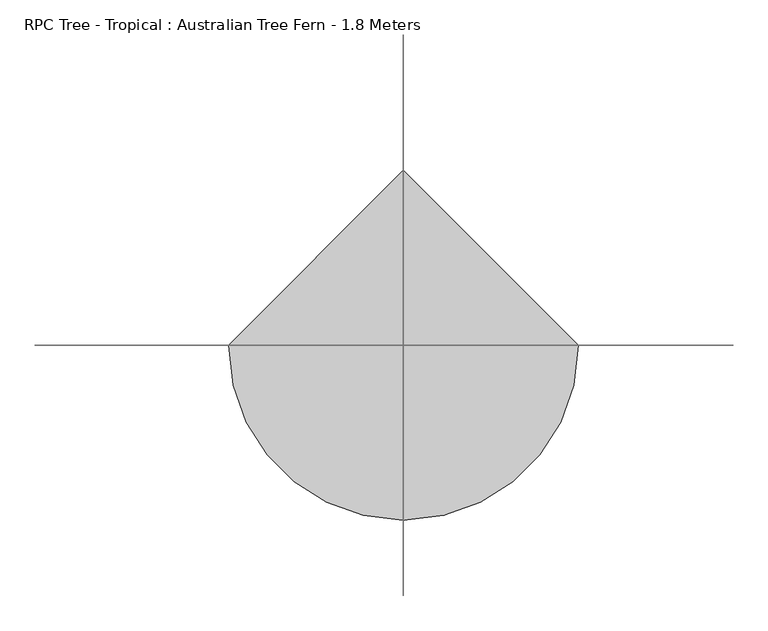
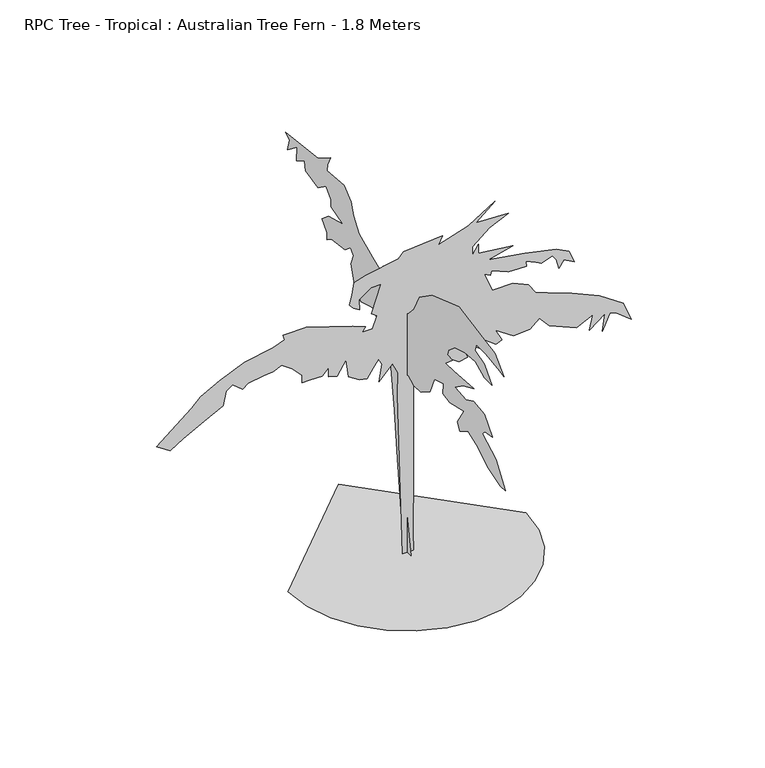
"""IFC4 building model written with IfcOpenShell, lengths in millimetres: geographic element geometry, RPC Tree - Tropical : Australian Tree Fern - 1.8 Meters."""

import ifcopenshell
import ifcopenshell.guid

model = None  # the IFC model being written
_history = None  # IfcOwnerHistory: only IFC2X3 demands one
_inside = {}  # id of a spatial element -> (the spatial element, [elements in it])
_under = {}  # id of a project, library or spatial element -> (it, [spatial elements below it])
_declared = {}  # id of a project -> (the project, [libraries it declares])
_typed = {}  # id of a type object -> (the type object, [elements of that type])
_made_of = {}  # id of a material, layer set ... -> (it, [elements and type objects made of it])


def new_model(schema):
    """Start an empty IFC model of exactly this schema.

    Asked for "IFC4X3", IfcOpenShell would pick the latest addendum, in which some entities
    have other attributes; the version numbers below select the first issue.
    IFC2X3 requires an IfcOwnerHistory on every rooted entity: one is made here for all.
    """
    global model, _history
    if schema == "IFC4X3":
        model = ifcopenshell.file(schema_version=(4, 3, 0, 0))
    else:
        model = ifcopenshell.file(schema=schema)
    _inside.clear()
    _under.clear()
    _declared.clear()
    _typed.clear()
    _made_of.clear()
    _history = None
    if model.schema == "IFC2X3":
        org = make("IfcOrganization", Name="unknown")
        user = make(
            "IfcPersonAndOrganization",
            ThePerson=make("IfcPerson", FamilyName="unknown"),
            TheOrganization=org,
        )
        app = make(
            "IfcApplication",
            ApplicationDeveloper=org,
            Version="unknown",
            ApplicationFullName="unknown",
            ApplicationIdentifier="unknown",
        )
        _history = make(
            "IfcOwnerHistory",
            OwningUser=user,
            OwningApplication=app,
            ChangeAction="ADDED",
            CreationDate=0,
        )
    return model


def make(cls, **values):
    """One entity of the class cls with the attributes given. An attribute that is None is left unset."""
    return model.create_entity(
        cls, **{name: value for name, value in values.items() if value is not None}
    )


def rooted(cls, **values):
    """An entity with a GlobalId (a new one), such as an element, a storey or a relation."""
    return make(cls, GlobalId=ifcopenshell.guid.new(), OwnerHistory=_history, **values)


def si_unit(unit_type, name, prefix=None):
    """IfcSIUnit, for example si_unit("LENGTHUNIT", "METRE", prefix="MILLI")."""
    return make("IfcSIUnit", UnitType=unit_type, Prefix=prefix, Name=name)


def assignment(units):
    """IfcUnitAssignment: the units of a project."""
    return None if units is None else make("IfcUnitAssignment", Units=units)


def point(xyz):
    """IfcCartesianPoint."""
    return None if xyz is None else make("IfcCartesianPoint", Coordinates=xyz)


def direction(xyz):
    """IfcDirection."""
    return None if xyz is None else make("IfcDirection", DirectionRatios=xyz)


def frame(location, z_axis=None, x_axis=None):
    """IfcAxis2Placement3D, a coordinate frame: its origin and axes. An axis left out is left unset."""
    return make(
        "IfcAxis2Placement3D",
        Location=point(location),
        Axis=direction(z_axis),
        RefDirection=direction(x_axis),
    )


def origin():
    """The frame at (0, 0, 0) with its axes left unset."""
    return frame((0.0, 0.0, 0.0))


def place(relative_to, where):
    """IfcLocalPlacement: puts the frame where relative to a parent placement (None: the world)."""
    return make(
        "IfcLocalPlacement", PlacementRelTo=relative_to, RelativePlacement=where
    )


def context(
    kind, dimensions, precision=None, world=None, true_north=None, identifier=None
):
    """IfcGeometricRepresentationContext, for example the 3D "Model" context."""
    return make(
        "IfcGeometricRepresentationContext",
        ContextIdentifier=identifier,
        ContextType=kind,
        CoordinateSpaceDimension=dimensions,
        Precision=precision,
        WorldCoordinateSystem=world,
        TrueNorth=true_north,
    )


def project(units=None, contexts=None):
    """IfcProject with its units and contexts."""
    return rooted(
        "IfcProject",
        Name="project",
        RepresentationContexts=contexts,
        UnitsInContext=assignment(units),
    )


def spatial(cls, under=None, at=None, **own):
    """A site, building, storey or space (cls), placed at a placement, below another one or the project."""
    s = rooted(cls, ObjectPlacement=at, **own)
    if under is not None:
        _under.setdefault(under.id(), (under, []))[1].append(s)
    return s


def point_list(points):
    """IfcCartesianPointList2D or 3D."""
    cls = (
        "IfcCartesianPointList2D" if len(points[0]) == 2 else "IfcCartesianPointList3D"
    )
    return make(cls, CoordList=points)


def triangles(points, corners, closed=None, point_numbers=None):
    """IfcTriangulatedFaceSet: each triangle names its three corners, points numbered from 1."""
    return make(
        "IfcTriangulatedFaceSet",
        Coordinates=point_list(points),
        Closed=closed,
        CoordIndex=corners,
        PnIndex=point_numbers,
    )


def shape(context_of_items, identifier, shape_type, items):
    """IfcShapeRepresentation: the items that make up one representation, for example the "Body"."""
    return make(
        "IfcShapeRepresentation",
        ContextOfItems=context_of_items,
        RepresentationIdentifier=identifier,
        RepresentationType=shape_type,
        Items=items,
    )


def source(mapping_origin, context_of_items, identifier, shape_type, items):
    """IfcRepresentationMap: a shape defined once, which mapped items show again and again."""
    return make(
        "IfcRepresentationMap",
        MappingOrigin=mapping_origin,
        MappedRepresentation=shape(context_of_items, identifier, shape_type, items),
    )


def transform(
    local_origin,
    x_axis=None,
    y_axis=None,
    z_axis=None,
    scale=None,
    scale2=None,
    scale3=None,
    uniform=True,
):
    """IfcCartesianTransformationOperator3D, or its non-uniform kind. x_axis, y_axis, z_axis: its Axis1, 2, 3."""
    if uniform:
        return make(
            "IfcCartesianTransformationOperator3D",
            Axis1=direction(x_axis),
            Axis2=direction(y_axis),
            LocalOrigin=point(local_origin),
            Scale=scale,
            Axis3=direction(z_axis),
        )
    return make(
        "IfcCartesianTransformationOperator3DnonUniform",
        Axis1=direction(x_axis),
        Axis2=direction(y_axis),
        LocalOrigin=point(local_origin),
        Scale=scale,
        Axis3=direction(z_axis),
        Scale2=scale2,
        Scale3=scale3,
    )


def mapped(mapping_source, mapping_target):
    """IfcMappedItem: shows the shape of a source again, moved by a transform."""
    return make(
        "IfcMappedItem", MappingSource=mapping_source, MappingTarget=mapping_target
    )


def made_of(thing, what):
    """Note that an element or type object is made of a material, layer set ...; save() writes the relation."""
    if what is not None:
        _made_of.setdefault(what.id(), (what, []))[1].append(thing)
    return thing


def element(
    cls,
    number,
    at=None,
    inside=None,
    cuts=None,
    type_object=None,
    material=None,
    context=None,
    identifier="Body",
    shape_type=None,
    held_by="IfcProductDefinitionShape",
    body=None,
    shapes=None,
    **own,
):
    """One element of the class cls, such as IfcWall. Its Tag is "e" and its number.

    at: its placement. inside: the storey or other place that contains it. cuts: it is an
    opening in that element (IfcRelVoidsElement). A single representation is given by context,
    identifier, shape_type and body (its items); several are given by shapes. held_by: the class
    of the entity that holds the representations. save() writes the other relations.
    """
    e = rooted(cls, Tag="e%d" % number, ObjectPlacement=at, **own)
    if body is not None:
        shapes = [shape(context, identifier, shape_type, body)]
    if shapes is not None:
        e.Representation = make(held_by, Representations=shapes)
    if inside is not None:
        _inside.setdefault(inside.id(), (inside, []))[1].append(e)
    if cuts is not None:
        rooted(
            "IfcRelVoidsElement", RelatingBuildingElement=cuts, RelatedOpeningElement=e
        )
    if type_object is not None:
        _typed.setdefault(type_object.id(), (type_object, []))[1].append(e)
    return made_of(e, material)


def aggregate(whole, parts):
    """IfcRelAggregates: a whole, such as a stair, and the parts it consists of."""
    return rooted("IfcRelAggregates", RelatingObject=whole, RelatedObjects=parts)


def save(model, path):
    """Write the relations noted so far, then the file.

    IfcRelAggregates (storeys below a building ...), IfcRelContainedInSpatialStructure (elements
    in a storey), IfcRelDefinesByType, IfcRelAssociatesMaterial and IfcRelDeclares: one each for
    every whole, place, type object, material and project.
    """
    for whole, parts in _under.values():
        aggregate(whole, parts)
    for where, things in _inside.values():
        rooted(
            "IfcRelContainedInSpatialStructure",
            RelatedElements=things,
            RelatingStructure=where,
        )
    for kind, things in _typed.values():
        rooted("IfcRelDefinesByType", RelatedObjects=things, RelatingType=kind)
    for what, things in _made_of.values():
        rooted("IfcRelAssociatesMaterial", RelatedObjects=things, RelatingMaterial=what)
    for by, libraries in _declared.values():
        rooted("IfcRelDeclares", RelatingContext=by, RelatedDefinitions=libraries)
    model.write(path)


def rpc_tree_tropical_australian_tree_fern_1_8_meters_0203a3dd(model_context):
    return source(origin(), model_context, "Body", "Tessellation", [
        triangles([(-628.7763731, 0.0, 0.0007046), (-612.1463562, -144.1188648, 0.0007046), (-564.7912525, -276.4677177, 0.0007046), (-490.4986942, -393.2578274, 0.0007046), (-393.0611461, -490.6953755, 0.0007046), (-276.2710546, -564.9879338, 0.0007046), (-143.9221926, -612.3430012, 0.0007046), (0.1966986, -628.9730181, 0.0007046), (144.3155371, -612.345472, 0.0007046), (276.6643809, -564.9879338, 0.0007046), (393.4545087, -490.6953755, 0.0007046), (490.8920568, -393.2578274, 0.0007046), (565.1846151, -276.4677177, 0.0007046), (612.5396461, -144.1188648, 0.0007046), (629.169663, 5.5e-05, 0.0007046), (0.1965886, 628.9730181, 0.0007046), (463.0895388, -3.44e-05, 1800.0014671), (362.9519737, -2.93e-05, 1714.1689156), (534.6171132, -2.89e-05, 1707.0162998), (434.4795118, -2.61e-05, 1660.5237888), (345.0694533, -2.17e-05, 1585.4212509), (345.0694533, -1.89e-05, 1538.9287399), (377.2569872, -2.19e-05, 1588.9963234), (377.2569872, -1.89e-05, 1538.9287399), (559.6521403, -1.76e-05, 1517.4711834), (430.9020412, -1.57e-05, 1485.2837585), (624.0246283, -1.38e-05, 1453.0961884), (788.537261, -1.16e-05, 1417.333691), (856.4873285, -9.5e-06, 1381.5685776), (885.0973555, -5.5e-06, 1313.6185101), (827.8773016, -7.4e-06, 1345.8060802), (802.8422745, -5e-06, 1306.4660397), (788.537261, -8.2e-06, 1360.111021), (767.0797771, -9.9e-06, 1388.721048), (709.8571798, -8.7e-06, 1367.2636368), (681.2472256, -9.5e-06, 1381.5685776), (627.6021715, -1.1e-05, 1406.6036774), (631.1771713, -9.3e-06, 1377.9936504), (588.2621673, -9.3e-06, 1377.9936504), (534.6171132, -9.5e-06, 1381.5685776), (445.2095255, -1.16e-05, 1417.333691), (441.6320186, -1.01e-05, 1392.2985912), (409.444521, -1.12e-05, 1410.1810753), (452.3620322, -5e-06, 1306.4660397), (559.6521403, -5e-06, 1306.4660397), (641.907185, -2.9e-06, 1270.7035423), (677.6696823, 3e-07, 1217.0584883), (742.04475, 1.8e-06, 1192.0234612), (870.792342, 4.8e-06, 1141.9534069), (1017.4224907, 8.6e-06, 1077.5808826), (1142.5950829, 1.37e-05, 991.7482584), (1185.5101233, 1.99e-05, 888.0332228), (1103.2550423, 1.61e-05, 952.4082905), (1071.0674721, 1.56e-05, 959.5607609), (1031.7275042, 2.08e-05, 873.7282093), (1046.0325176, 1.52e-05, 966.7133039), (963.7774366, 1.91e-05, 902.340707), (981.6599207, 1.42e-05, 984.595788), (895.8273691, 1.67e-05, 941.6782768), (752.7747637, 1.31e-05, 1002.4782721), (699.1297096, 9.5e-06, 1063.2758692), (649.0596554, 1.2e-05, 1020.3582853), (563.2271401, 1.24e-05, 1013.2058149), (466.6670457, 8.6e-06, 1077.5808826), (502.4295794, 1.24e-05, 1013.2058149), (470.2420455, 1.33e-05, 998.9008015), (320.0369333, 6.5e-06, 1113.34338), (413.022028, 1.42e-05, 984.595788), (280.6968927, 8.6e-06, 1077.5808826), (320.0369333, 1.46e-05, 977.4433176), (273.544386, 1.5e-05, 970.2907745), (187.7115619, 1.14e-05, 1031.088299), (87.5742421, 9.5e-06, 1063.2758692), (191.2880696, 1.5e-05, 970.2907745), (30.352694, 1.1e-05, 1038.2408421), (33.9289474, 1.54e-05, 963.1383041), (33.9289474, 3.27e-05, 673.4530066), (33.9289474, 4.76e-05, 423.1103293), (30.352694, 6.66e-05, 104.8153318), (33.9289474, 7.24e-05, 0.0013067), (-23.2925485, 7.27e-05, 0.0006893), (-51.903368, 1.95e-05, 895.1882366), (-48.3268649, 1.2e-05, 1020.3582853), (-76.9376367, 8.4e-06, 1081.1558825), (-148.4644481, 1.29e-05, 1006.0532719), (-134.1591893, 7.3e-06, 1099.0383665), (-152.0409467, 5.4e-06, 1131.2259367), (-180.6514732, 7.8e-06, 1091.8858961), (-212.8384984, 1.05e-05, 1045.3933125), (-252.178539, 1.01e-05, 1052.5458555), (-309.4010636, 8e-06, 1088.3083529), (-323.7060771, 2e-06, 1188.4459179), (-370.1986244, 6.5e-06, 1113.34338), (-416.6911354, 5.6e-06, 1127.6483934), (-416.6911354, 2.6e-06, 1177.7184477), (-448.8761621, 4.8e-06, 1141.9534069), (-509.6737229, 4.8e-06, 1141.9534069), (-556.1662703, 4.8e-06, 1141.9534069), (-556.1662703, 2.2e-06, 1184.8709181), (-609.8138678, -1e-06, 1238.5159721), (-663.4563784, -3.3e-06, 1277.8560127), (-709.9488894, -2e-06, 1256.3984562), (-760.0189436, -1.8e-06, 1252.8210583), (-842.2740246, -1e-06, 1238.5159721), (-870.8865223, 3e-07, 1217.0584883), (-924.5315763, -2.3e-06, 1259.9735287), (-956.7166031, -8e-07, 1234.9384289), (-974.5991598, 3.7e-06, 1159.8359636), (-1074.7367249, 6.7e-06, 1109.7683802), (-1185.6043036, 1.03e-05, 1048.9708557), (-1253.5542984, 1.29e-05, 1006.0532719), (-1325.0819092, 1.01e-05, 1052.5458555), (-1139.1117926, 1.2e-06, 1202.7534748), (-1092.6192089, -1.8e-06, 1252.8210583), (-992.4816439, -5e-06, 1306.4660397), (-860.1565086, -8.4e-06, 1363.6885643), (-709.9488894, -1.01e-05, 1392.2985912), (-649.1513649, -1.14e-05, 1413.7561478), (-656.303908, -1.31e-05, 1442.3661747), (-531.1337502, -1.31e-05, 1442.3661747), (-409.5361579, -1.08e-05, 1403.0286049), (-287.9410727, -8.4e-06, 1363.6885643), (-219.9912595, -6.9e-06, 1338.6536098), (-237.873035, -5.5e-06, 1313.6185101), (-184.2277266, -5.5e-06, 1313.6185101), (-159.1934625, -9.3e-06, 1377.9936504), (-187.8042343, -1.06e-05, 1399.4510616), (-137.7354336, -1.93e-05, 1546.0812103), (-191.3804877, -1.93e-05, 1546.0812103), (-255.7535388, -1.65e-05, 1499.5886993), (-252.178539, -1.31e-05, 1442.3661747), (-284.3660728, -1.44e-05, 1463.826202), (-305.8235567, -1.59e-05, 1488.8586857), (-291.5185614, -1.91e-05, 1542.5036671), (-280.7885659, -2.27e-05, 1603.303735), (-216.4150061, -2.4e-05, 1624.7612915), (-44.7506115, -2.59e-05, 1656.9488617), (-19.7161203, -2.76e-05, 1685.5588886), (187.7115619, -2.87e-05, 1703.4413727), (166.2535512, -2.61e-05, 1660.5237888), (323.6119331, -2.91e-05, 1710.5938431), (0.1967009, -848.2856489, 1525.4262211), (0.1966947, -721.9905962, 1545.7961987), (0.1966909, -636.4380421, 1545.7961987), (0.1966914, -620.1404903, 1505.0562435), (0.1966961, -709.7680864, 1480.611224), (0.1967013, -774.9531338, 1403.206065), (0.1966982, -705.6955879, 1403.206065), (0.1966934, -624.2155323, 1443.9461655), (0.1966894, -530.5129306, 1435.7960815), (0.1966861, -436.812836, 1407.2786362), (0.196685, -379.7777999, 1358.3910679), (0.1966854, -367.5552901, 1325.7985806), (0.1966876, -416.4428221, 1325.7985806), (0.1966864, -351.2577747, 1268.7635445), (0.1966897, -428.6653318, 1272.8385864), (0.1966975, -611.9930225, 1285.0610962), (0.1966943, -510.1429167, 1240.2459538), (0.1966926, -436.812836, 1187.2834162), (0.1966974, -538.6629418, 1179.1359484), (0.1966995, -607.9204877, 1211.7284357), (0.1967043, -705.6955879, 1199.5059259), (0.1967102, -783.1006016, 1118.0258703), (0.1967074, -713.8430557, 1105.805904), (0.1967071, -689.4005796, 1081.3608845), (0.1967146, -811.6181196, 1012.1033386), (0.1967223, -901.2457157, 889.8831825), (0.1967202, -852.3581474, 885.810684), (0.1967138, -734.213106, 922.4757425), (0.1967074, -632.3630001, 983.5858206), (0.1967032, -559.0329557, 1016.1783079), (0.1967012, -481.6253986, 967.2882689), (0.1966991, -461.2553847, 1008.0282967), (0.1966989, -522.3654264, 1105.805904), (0.196694, -391.9978025, 1073.213344), (0.1966907, -326.8152623, 1085.4358538), (0.1966892, -330.8877608, 1142.4708899), (0.1966863, -249.4091949, 1118.0258703), (0.1966873, -208.6694215, 1024.3258484), (0.1966852, -127.189602, 971.3633108), (0.1966824, -62.006049, 967.2882689), (0.1966794, -13.1181855, 995.8083303), (0.1966778, 31.6955263, 983.5858206), (0.1966755, 52.0655402, 1028.3983469), (0.1966759, 80.5833171, 971.3633108), (0.1966779, 84.6573144, 898.030723), (0.1966865, 56.1395466, 653.5930269), (0.1966983, 19.473666, 311.3777598), (0.1967098, -33.4880268, 0.0007036), (0.1967069, 35.7695282, 0.0), (0.1967013, 52.0655402, 164.7148733), (0.1966905, 88.7315752, 470.2628654), (0.1966817, 117.2490932, 722.8505728), (0.1966725, 153.9151146, 975.4382801), (0.1966664, 206.8769073, 1101.730862), (0.1966639, 263.9127065, 1101.730862), (0.1966599, 300.5777468, 1179.1359484), (0.1966575, 365.762776, 1162.8409401), (0.1966555, 422.7978484, 1142.4708899), (0.196651, 483.9078901, 1203.5809679), (0.1966468, 512.4254082, 1301.3560318), (0.196646, 492.0553943, 1358.3910679), (0.1966439, 520.5729123, 1386.9086586), (0.1966429, 569.4604443, 1346.1685581), (0.1966379, 691.6805277, 1329.8736225), (0.196637, 732.4205555, 1301.3560318), (0.1966357, 732.4205555, 1342.0961323), (0.1966321, 781.3081238, 1390.9835552), (0.1966334, 720.1980457, 1439.8711235), (0.1966381, 589.8304582, 1476.536182), (0.1966324, 695.7555696, 1509.1286694), (0.1966311, 699.8280682, 1545.7961987), (0.1966277, 744.6430653, 1594.6837669), (0.196626, 817.9731823, 1541.721302), (0.1966201, 932.0457253, 1566.1637054), (0.1966183, 940.1932657, 1615.0537445), (0.1966162, 1013.5257809, 1574.3137894), (0.1966141, 1009.4508116, 1651.718803), (0.1966123, 1095.0059092, 1586.5338284), (0.1966112, 1078.7083574, 1647.6437611), (0.1966088, 1115.3758867, 1672.0887806), (0.1966211, 817.9731823, 1704.6814133), (0.196624, 703.9030375, 1778.011385), (0.1966245, 728.3455862, 1725.0513908), (0.1966254, 736.4955975, 1684.3112904), (0.196632, 577.6079484, 1700.6063713), (0.1966365, 512.4254082, 1647.6437611), (0.1966393, 492.0553943, 1582.4612572), (0.1966437, 439.0928567, 1513.2037113), (0.1966509, 316.875244, 1456.1662045), (0.1966608, 141.6931136, 1386.9086586), (0.1966549, 223.1726787, 1464.316143), (0.1966615, 113.1750868, 1407.2786362), (0.1966689, -0.8962257, 1329.8736225), (0.1966697, -62.006049, 1395.0585972), (0.1966689, -110.8938398, 1492.8337337), (0.1966718, -229.039181, 1574.3137894), (0.1966802, -473.4778945, 1659.8662708), (0.196691, -689.4005796, 1619.1263157), (0.1966968, -803.4706518, 1598.7563381), (0.1967028, -884.9507074, 1517.2762825)], [[15, 16, 1], [14, 15, 1], [14, 1, 2], [13, 14, 2], [13, 2, 3], [13, 3, 4], [12, 13, 4], [11, 12, 4], [11, 4, 5], [11, 5, 6], [11, 6, 7], [11, 7, 8], [11, 8, 9], [11, 9, 10], [141, 17, 18], [54, 55, 56], [73, 74, 75], [67, 68, 69], [24, 25, 26], [18, 19, 20], [51, 52, 53], [22, 23, 24], [84, 85, 86], [29, 30, 31], [56, 57, 58], [31, 32, 33], [130, 131, 132], [138, 139, 140], [41, 42, 43], [111, 112, 113], [110, 111, 113], [109, 110, 113], [122, 123, 124], [118, 119, 120], [18, 20, 21], [141, 18, 21], [69, 70, 71], [69, 71, 72], [28, 29, 31], [28, 31, 33], [28, 33, 34], [27, 28, 34], [27, 34, 35], [27, 35, 36], [27, 36, 37], [130, 132, 133], [130, 133, 134], [50, 51, 53], [50, 53, 54], [50, 54, 56], [50, 56, 58], [140, 141, 21], [37, 38, 39], [64, 65, 66], [64, 66, 67], [80, 81, 82], [79, 80, 82], [78, 79, 82], [77, 78, 82], [76, 77, 82], [76, 82, 83], [75, 76, 83], [97, 98, 99], [49, 50, 58], [49, 58, 59], [49, 59, 60], [48, 49, 60], [48, 60, 61], [47, 48, 61], [129, 130, 134], [129, 134, 135], [129, 135, 136], [129, 136, 137], [128, 129, 137], [108, 109, 113], [108, 113, 114], [107, 108, 114], [107, 114, 115], [106, 107, 115], [106, 115, 116], [105, 106, 116], [104, 105, 116], [103, 104, 116], [103, 116, 117], [102, 103, 117], [101, 102, 117], [101, 117, 118], [75, 83, 84], [26, 27, 37], [26, 37, 39], [26, 39, 40], [26, 40, 41], [26, 41, 43], [92, 93, 94], [92, 94, 95], [126, 127, 128], [101, 118, 120], [100, 101, 120], [100, 120, 121], [99, 100, 121], [97, 99, 121], [96, 97, 121], [95, 96, 121], [95, 121, 122], [92, 95, 122], [92, 122, 124], [140, 21, 22], [88, 89, 90], [24, 26, 43], [22, 24, 43], [88, 90, 91], [88, 91, 92], [88, 92, 124], [87, 88, 124], [87, 124, 125], [47, 61, 62], [47, 62, 63], [47, 63, 64], [46, 47, 64], [45, 46, 64], [44, 45, 64], [44, 64, 67], [43, 44, 67], [137, 138, 140], [128, 137, 140], [126, 128, 140], [126, 140, 22], [126, 22, 43], [126, 43, 67], [126, 67, 69], [126, 69, 72], [126, 72, 73], [125, 126, 73], [87, 125, 73], [87, 73, 75], [87, 75, 84], [87, 84, 86], [231, 232, 233], [156, 157, 158], [240, 241, 142], [222, 223, 224], [218, 219, 220], [220, 221, 222], [218, 220, 222], [153, 154, 155], [240, 142, 143], [239, 240, 143], [146, 147, 148], [205, 206, 207], [162, 163, 164], [156, 158, 159], [216, 217, 218], [216, 218, 222], [166, 167, 168], [166, 168, 169], [222, 224, 225], [239, 143, 144], [238, 239, 144], [146, 148, 149], [145, 146, 149], [165, 166, 169], [165, 169, 170], [207, 208, 209], [188, 189, 190], [188, 190, 191], [188, 191, 192], [187, 188, 192], [187, 192, 193], [186, 187, 193], [186, 193, 194], [185, 186, 194], [171, 172, 173], [171, 173, 174], [145, 149, 150], [155, 156, 159], [165, 170, 171], [165, 171, 174], [175, 176, 177], [182, 183, 184], [205, 207, 209], [205, 209, 210], [204, 205, 210], [203, 204, 210], [161, 162, 164], [161, 164, 165], [161, 165, 174], [160, 161, 174], [159, 160, 174], [159, 174, 175], [159, 175, 177], [155, 159, 177], [238, 144, 145], [238, 145, 150], [237, 238, 150], [237, 150, 151], [237, 151, 152], [236, 237, 152], [235, 236, 152], [235, 152, 153], [235, 153, 155], [235, 155, 177], [235, 177, 178], [234, 235, 178], [234, 178, 179], [234, 179, 180], [234, 180, 181], [234, 181, 182], [234, 182, 184], [231, 233, 234], [231, 234, 184], [214, 215, 216], [214, 216, 222], [213, 214, 222], [213, 222, 225], [213, 225, 226], [212, 213, 226], [212, 226, 227], [212, 227, 228], [211, 212, 228], [210, 211, 228], [210, 228, 229], [203, 210, 229], [203, 229, 230], [202, 203, 230], [184, 185, 194], [184, 194, 195], [231, 184, 195], [230, 231, 195], [230, 195, 196], [230, 196, 197], [202, 230, 197], [202, 197, 198], [201, 202, 198], [200, 201, 198], [199, 200, 198]], closed=False),
    ])


if __name__ == "__main__":
    model = new_model("IFC4")
    model_context = context("Model", 3, world=origin())
    ifc_project = project(units=[si_unit("LENGTHUNIT", "METRE", prefix="MILLI")], contexts=[model_context])
    site = spatial("IfcSite", under=ifc_project)
    building = spatial("IfcBuilding", under=site)
    placement = place(None, origin())
    rpc_tree_tropical_australian_tree_fern_1_8_meters_shape = rpc_tree_tropical_australian_tree_fern_1_8_meters_0203a3dd(model_context)
    element("IfcGeographicElement", 1, ObjectType="RPC Tree - Tropical : Australian Tree Fern - 1.8 Meters", at=placement, inside=building, context=model_context, shape_type="MappedRepresentation", body=[
        mapped(rpc_tree_tropical_australian_tree_fern_1_8_meters_shape, transform((0.0, 0.0, 0.0), x_axis=(1.0, 0.0, 0.0), y_axis=(0.0, 1.0, 0.0), z_axis=(0.0, 0.0, 1.0))),
    ])
    save(model, "model.ifc")
